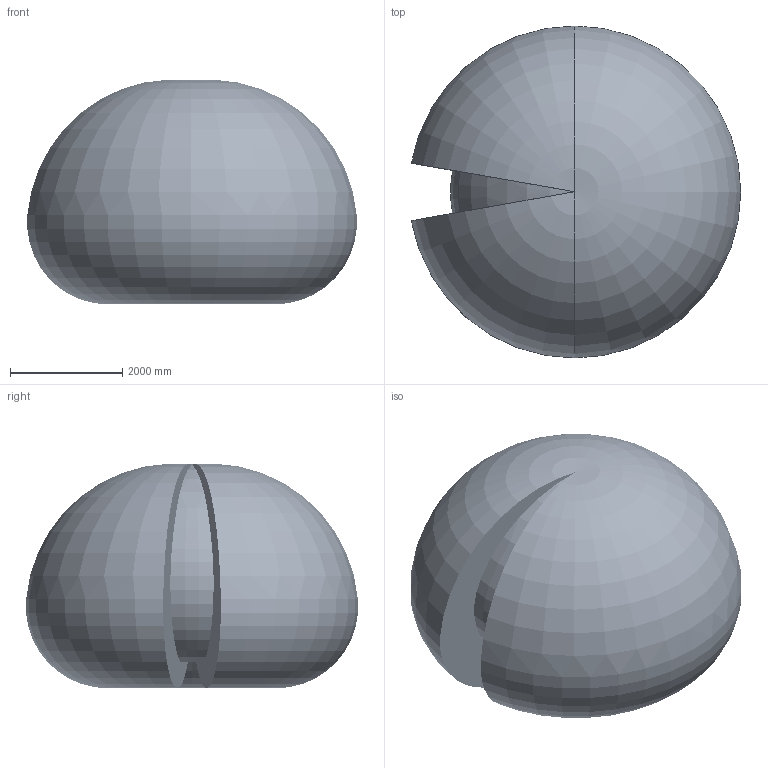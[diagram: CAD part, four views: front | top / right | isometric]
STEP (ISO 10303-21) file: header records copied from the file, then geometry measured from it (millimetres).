
FILE_DESCRIPTION (( 'STEP AP214' ), '1' );
FILE_NAME ('IRB6710_200kg-295_OC_00_ASM_CAD.STEP', '2023-05-10T08:07:43', ( '' ), ( '' ), 'SwSTEP 2.0', 'SolidWorks 2020', '' );
FILE_SCHEMA (( 'AUTOMOTIVE_DESIGN' ));
Length unit declared in the file: millimetre
Products named in the file (14): IRB6710_200kg-295_OC_00_LINK03m_CABLE; IRB6710_200kg-295_OC_00_ROD_CAD; IRB6710_200kg-295_OC_00_LINK02_CAD; IRB6710_200kg-295_OC_00_BASE_CAD; IRB6710_200kg-295_OC_00_ASM_CAD; IRB6710_200kg-295_OC_00_CYL_CAD; IRB6710_200kg-295_OC_00_LINK04_CAD; IRB6710_200kg-295_OC_00_Working-space; IRB6710_200kg-295_OC_00_LINK02m_CABLE; IRB6710_200kg-295_OC_00_LINK01m_CABLE; IRB6710_200kg-295_OC_00_LINK06_CAD; IRB6710_200kg-295_OC_00_LINK01_CAD; IRB6710_200kg-295_OC_00_LINK05_CAD; IRB6710_200kg-295_OC_00_LINK03_CAD
Assembly tree (13 placements, depth 2):
  IRB6710_200kg-295_OC_00_ASM_CAD
    IRB6710_200kg-295_OC_00_BASE_CAD
    IRB6710_200kg-295_OC_00_CYL_CAD
    IRB6710_200kg-295_OC_00_LINK01_CAD
    IRB6710_200kg-295_OC_00_LINK02_CAD
    IRB6710_200kg-295_OC_00_LINK03_CAD
    IRB6710_200kg-295_OC_00_LINK04_CAD
    IRB6710_200kg-295_OC_00_LINK05_CAD
    IRB6710_200kg-295_OC_00_LINK06_CAD
    IRB6710_200kg-295_OC_00_ROD_CAD
    IRB6710_200kg-295_OC_00_LINK01m_CABLE
    IRB6710_200kg-295_OC_00_LINK02m_CABLE
    IRB6710_200kg-295_OC_00_LINK03m_CABLE
    IRB6710_200kg-295_OC_00_Working-space
Bounding box: 5865.6 x 5910.49 x 3998.23 mm (x, y, z)
Volume: 72750114205 mm3; surface area: 126315543.2 mm2
Topology: 14 solids, 26 shells, 7389 faces, 18772 edges, 11934 vertices
Faces by surface type: plane 3369, cylinder 1915, cone 1243, bspline 518, torus 300, sphere 44
Entity records: 342195 total; most frequent: CARTESIAN_POINT 151897, ORIENTED_EDGE 37196, DIRECTION 33857, EDGE_CURVE 18598, AXIS2_PLACEMENT_3D 12489, VERTEX_POINT 11932, VECTOR 8879, LINE 8879
